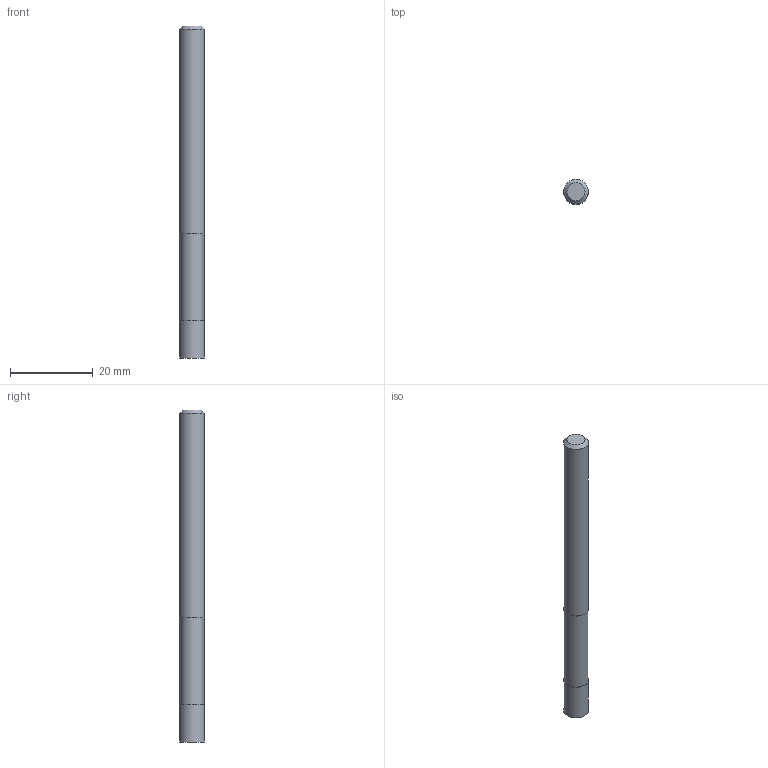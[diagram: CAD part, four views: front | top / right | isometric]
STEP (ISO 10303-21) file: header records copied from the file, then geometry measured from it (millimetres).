
FILE_DESCRIPTION((''),'2;1');
FILE_NAME('C:\Users\nsx150\AppData\Local\Temp\Mastercam 2021\EUJSUNXURU\TEMP.step','2021-04-22T10:28:51',(''),(''),'STEP Write','Mastercam 2021 ... CNC Software, Inc.','');
FILE_SCHEMA(('AUTOMOTIVE_DESIGN'));
Length unit declared in the file: millimetre
Products named in the file (1): None
Bounding box: 6 x 6 x 80 mm (x, y, z)
Volume: 2217.5 mm3; surface area: 1598.2 mm2
Topology: 2 solids, 2 shells, 9 faces, 11 edges, 7 vertices
Faces by surface type: plane 5, cylinder 3, cone 1
Full cylindrical faces by diameter (mm): 5.8 x1, 6 x2
Entity records: 211 total; most frequent: DIRECTION 36, CARTESIAN_POINT 25, AXIS2_PLACEMENT_3D 18, ORIENTED_EDGE 14, EDGE_LOOP 14, STYLED_ITEM 12, ADVANCED_FACE 9, FACE_BOUND 8
